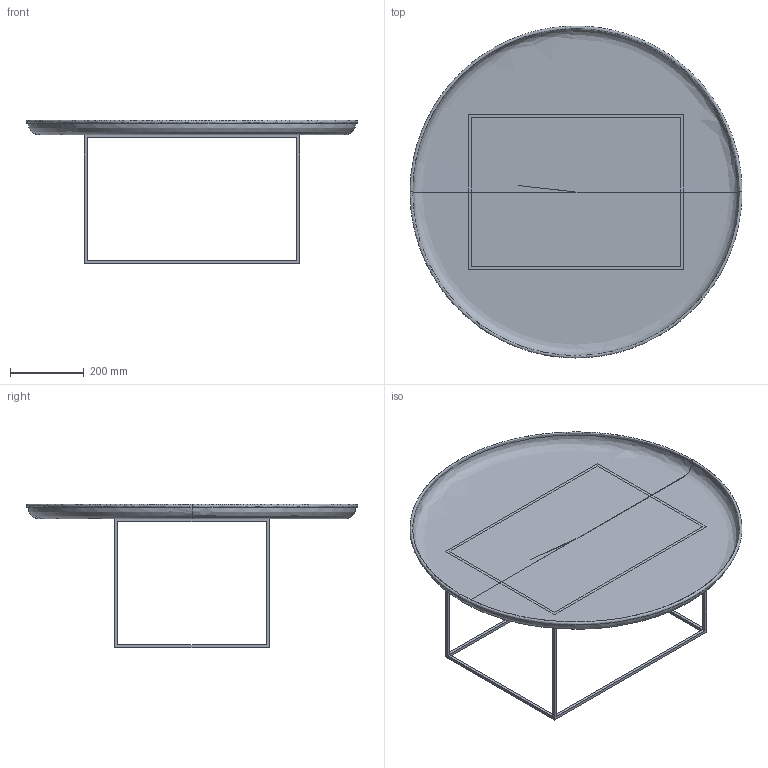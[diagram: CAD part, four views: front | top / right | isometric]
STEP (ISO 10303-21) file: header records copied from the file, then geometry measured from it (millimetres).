
FILE_DESCRIPTION(/* description */ (''),/* implementation_level */ '2;1');
FILE_NAME(/* name */ 'Duke Tables, Large',/* time_stamp */ '2020-09-18T14:39:51+02:00',/* author */ (''),/* organization */ (''),/* preprocessor_version */ 'ST-DEVELOPER v15',/* originating_system */ '',/* authorisation */ '');
FILE_SCHEMA (('AUTOMOTIVE_DESIGN'));
Length unit declared in the file: millimetre
Products named in the file (1): Document
Bounding box: 901 x 901 x 389.8 mm (x, y, z)
Volume: 4107491.4 mm3; surface area: 1584207.3 mm2
Topology: 2 solids, 2 shells, 34 faces, 82 edges, 44 vertices
Faces by surface type: plane 30, bspline 4
Entity records: 1285 total; most frequent: CARTESIAN_POINT 686, ORIENTED_EDGE 156, EDGE_CURVE 78, B_SPLINE_CURVE_WITH_KNOTS 72, VERTEX_POINT 44, EDGE_LOOP 40, ADVANCED_FACE 34, FACE_OUTER_BOUND 34
